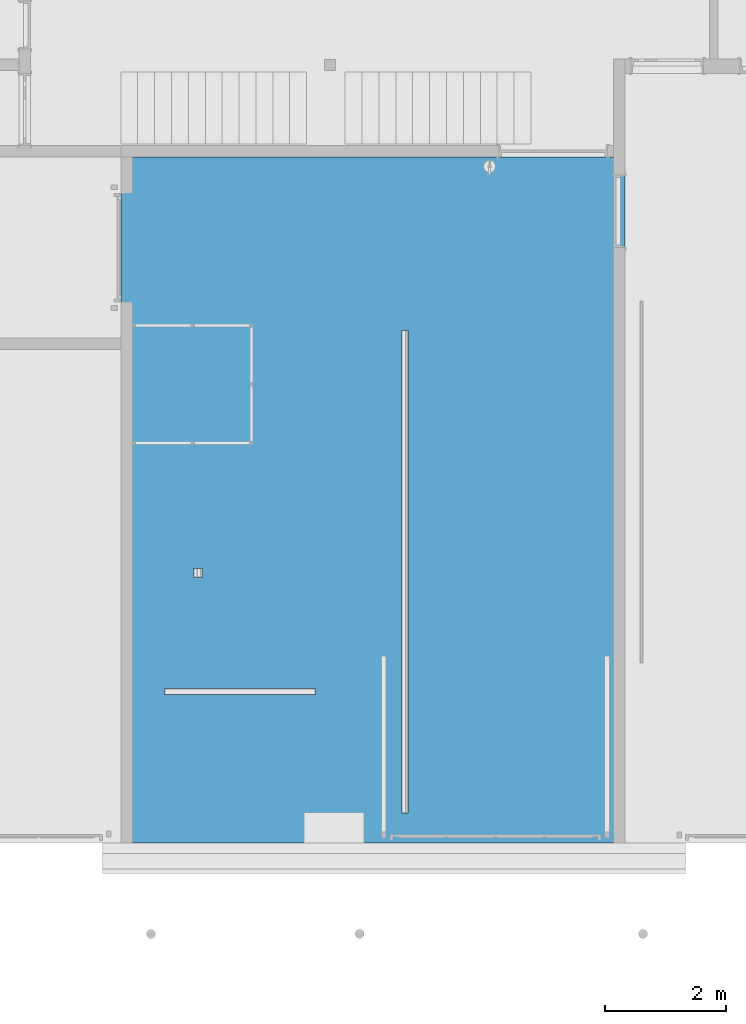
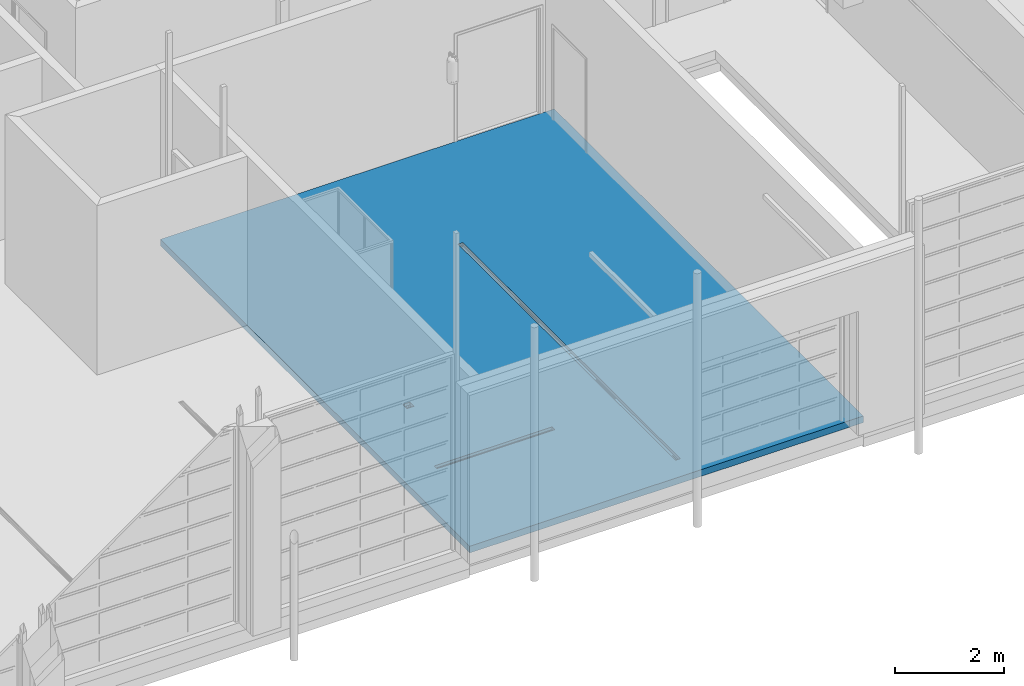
# One storey, part 53 of 112: 1 building element part, 1 element without a shape of its own.
"""IFC2X3 building model written with IfcOpenShell, lengths in millimetres."""

from ifc_helpers import new_model, entity, si_unit, converted_unit, derived_unit, money_unit, direction, frame, origin_with_axes, place, context, subcontext, project, spatial, polyline, outline, extrude, boolean, faceted_brep, material, type_object, element, aggregate, save


model = new_model("IFC2X3")

# Units and contexts
model_context = context("Model", 3, precision=0.01, world=origin_with_axes(), true_north=direction((0.0, 1.0)))
body_context = subcontext(model_context, "Body", "Model", "MODEL_VIEW")
ifc_project = project(units=[si_unit("LENGTHUNIT", "METRE", prefix="MILLI"), si_unit("AREAUNIT", "SQUARE_METRE"), si_unit("VOLUMEUNIT", "CUBIC_METRE"), converted_unit("PLANEANGLEUNIT", "DEGREE", entity("IfcPlaneAngleMeasure", 0.0174532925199), si_unit("PLANEANGLEUNIT", "RADIAN"), dimensions=[0, 0, 0, 0, 0, 0, 0]), si_unit("SOLIDANGLEUNIT", "STERADIAN"), money_unit("EUR"), converted_unit("TIMEUNIT", "Year", entity("IfcTimeMeasure", 31556926.0), si_unit("TIMEUNIT", "SECOND"), dimensions=[0, 0, 1, 0, 0, 0, 0]), si_unit("MASSUNIT", "GRAM", prefix="KILO"), si_unit("THERMODYNAMICTEMPERATUREUNIT", "DEGREE_CELSIUS"), si_unit("LUMINOUSINTENSITYUNIT", "LUMEN"), si_unit("ENERGYUNIT", "JOULE", prefix="MEGA"), derived_unit("THERMALCONDUCTANCEUNIT", [(si_unit("POWERUNIT", "WATT"), 1), (si_unit("LENGTHUNIT", "METRE"), -1), (si_unit("THERMODYNAMICTEMPERATUREUNIT", "KELVIN"), -1)]), derived_unit("SPECIFICHEATCAPACITYUNIT", [(si_unit("ENERGYUNIT", "JOULE"), 1), (si_unit("MASSUNIT", "GRAM", prefix="KILO"), -1), (si_unit("THERMODYNAMICTEMPERATUREUNIT", "KELVIN"), -1)]), derived_unit("MASSDENSITYUNIT", [(si_unit("MASSUNIT", "GRAM", prefix="KILO"), 1), (si_unit("VOLUMEUNIT", "CUBIC_METRE"), -1)])], contexts=[model_context])

# Site, building, storey
site_placement = place(None, origin_with_axes())
site = spatial("IfcSite", under=ifc_project, at=site_placement, Name="Politse- ja Piirivalveameti ning Päästeameti ühishoone", CompositionType="ELEMENT")
building_placement = place(site_placement, origin_with_axes())
building = spatial("IfcBuilding", under=site, at=building_placement, Name="Politse- ja Piirivalveameti ning Päästeameti ühishoone", CompositionType="ELEMENT")
storey_placement = place(building_placement, origin_with_axes())
storey = spatial("IfcBuildingStorey", under=building, at=storey_placement, Name="Esimene korrus", CompositionType="ELEMENT", Elevation=0.0)

# Slab, building element part
slab_type = type_object("IfcSlabType", Name="PP-02_Põrand pinnasel 650", PredefinedType="NOTDEFINED")
slab_placement = place(storey_placement, frame((18400.0881112, 0.0, 0.0), z_axis=(0.0, 0.0, 1.0), x_axis=(1.0, 0.0, 0.0)))
slab = element("IfcSlab", 1, at=slab_placement, inside=storey, type_object=slab_type, Name="PP-02", PredefinedType="NOTDEFINED")
ifc_material = material(Name="VKR-01_Betoon")
building_element_part_placement = place(slab_placement, origin_with_axes())
building_element_part = element("IfcBuildingElementPart", 2, at=building_element_part_placement, material=ifc_material, Name="VKR-01_Betoon", context=body_context, shape_type="CSG", body=[
    boolean("DIFFERENCE", boolean("DIFFERENCE", boolean("DIFFERENCE", extrude(outline(polyline([(0.0, 0.0), (8359.61277161, 0.0), (8359.61277161, 11370.0198611), (0.0, 11370.0198611), (0.0, 0.0)])), frame((0.0, 0.0, -150.0), z_axis=(0.0, 0.0, 1.0), x_axis=(1.0, 0.0, 0.0)), (0.0, 0.0, 1.0), 150.0), faceted_brep([(1207.58914778, 4402.69233354, 0.0), (1357.58914778, 4402.69233354, 0.0), (1357.58914778, 4552.69233354, 0.0), (1207.58914778, 4552.69233354, 0.0), (1207.58914778, 4402.69233354, -100.0), (1357.58914778, 4402.69233354, -100.0), (1357.58914778, 4552.69233354, -100.0), (1207.58914778, 4552.69233354, -100.0), (1212.58914778, 4547.69233354, -100.0), (1212.58914778, 4522.19233354, -100.0), (1212.58914778, 4520.19233354, -100.0), (1212.58914778, 4493.19233354, -100.0), (1212.58914778, 4491.19233354, -100.0), (1212.58914778, 4464.19233354, -100.0), (1212.58914778, 4462.19233354, -100.0), (1212.58914778, 4435.19233354, -100.0), (1212.58914778, 4433.19233354, -100.0), (1212.58914778, 4407.69233354, -100.0), (1238.08914778, 4407.69233354, -100.0), (1240.08914778, 4407.69233354, -100.0), (1267.08914778, 4407.69233354, -100.0), (1269.08914778, 4407.69233354, -100.0), (1296.08914778, 4407.69233354, -100.0), (1298.08914778, 4407.69233354, -100.0), (1325.08914778, 4407.69233354, -100.0), (1327.08914778, 4407.69233354, -100.0), (1352.58914778, 4407.69233354, -100.0), (1352.58914778, 4433.19233354, -100.0), (1352.58914778, 4435.19233354, -100.0), (1352.58914778, 4462.19233354, -100.0), (1352.58914778, 4464.19233354, -100.0), (1352.58914778, 4491.19233354, -100.0), (1352.58914778, 4493.19233354, -100.0), (1352.58914778, 4520.19233354, -100.0), (1352.58914778, 4522.19233354, -100.0), (1352.58914778, 4547.69233354, -100.0), (1327.08914778, 4547.69233354, -100.0), (1327.08914778, 4522.19233354, -100.0), (1327.08914778, 4520.19233354, -100.0), (1327.08914778, 4493.19233354, -100.0), (1327.08914778, 4491.19233354, -100.0), (1327.08914778, 4464.19233354, -100.0), (1327.08914778, 4462.19233354, -100.0), (1327.08914778, 4435.19233354, -100.0), (1327.08914778, 4433.19233354, -100.0), (1325.08914778, 4433.19233354, -100.0), (1325.08914778, 4435.19233354, -100.0), (1325.08914778, 4462.19233354, -100.0), (1325.08914778, 4464.19233354, -100.0), (1325.08914778, 4491.19233354, -100.0), (1325.08914778, 4493.19233354, -100.0), (1325.08914778, 4520.19233354, -100.0), (1325.08914778, 4522.19233354, -100.0), (1325.08914778, 4547.69233354, -100.0), (1298.08914778, 4547.69233354, -100.0), (1298.08914778, 4522.19233354, -100.0), (1298.08914778, 4520.19233354, -100.0), (1298.08914778, 4493.19233354, -100.0), (1298.08914778, 4491.19233354, -100.0), (1298.08914778, 4464.19233354, -100.0), (1298.08914778, 4462.19233354, -100.0), (1298.08914778, 4435.19233354, -100.0), (1298.08914778, 4433.19233354, -100.0), (1296.08914778, 4433.19233354, -100.0), (1296.08914778, 4435.19233354, -100.0), (1296.08914778, 4462.19233354, -100.0), (1296.08914778, 4464.19233354, -100.0), (1296.08914778, 4491.19233354, -100.0), (1296.08914778, 4493.19233354, -100.0), (1296.08914778, 4520.19233354, -100.0), (1296.08914778, 4522.19233354, -100.0), (1296.08914778, 4547.69233354, -100.0), (1269.08914748, 4547.69233354, -100.0), (1269.08914778, 4522.19233354, -100.0), (1269.08914778, 4520.19233354, -100.0), (1269.08914778, 4493.19233354, -100.0), (1269.08914778, 4491.19233354, -100.0), (1269.08914778, 4464.19233354, -100.0), (1269.08914778, 4462.19233354, -100.0), (1269.08914778, 4435.19233354, -100.0), (1269.08914778, 4433.19233354, -100.0), (1267.08914778, 4433.19233354, -100.0), (1267.08914778, 4435.19233354, -100.0), (1267.08914778, 4462.19233354, -100.0), (1267.08914778, 4464.19233354, -100.0), (1267.08914778, 4491.19233354, -100.0), (1267.08914778, 4493.19233354, -100.0), (1267.08914778, 4520.19233354, -100.0), (1267.08914778, 4522.19233354, -100.0), (1267.08914778, 4547.69233354, -100.0), (1240.08914748, 4547.69233354, -100.0), (1240.08914778, 4522.19233354, -100.0), (1240.08914778, 4520.19233354, -100.0), (1240.08914778, 4493.19233354, -100.0), (1240.08914778, 4491.19233354, -100.0), (1240.08914778, 4464.19233354, -100.0), (1240.08914778, 4462.19233354, -100.0), (1240.08914778, 4435.19233354, -100.0), (1240.08914778, 4433.19233354, -100.0), (1238.08914778, 4433.19233354, -100.0), (1238.08914778, 4435.19233354, -100.0), (1238.08914778, 4462.19233354, -100.0), (1238.08914778, 4464.19233354, -100.0), (1238.08914778, 4491.19233354, -100.0), (1238.08914778, 4493.19233354, -100.0), (1238.08914778, 4520.19233354, -100.0), (1238.08914778, 4522.19233354, -100.0), (1238.08914778, 4547.69233354, -100.0), (1212.58914778, 4547.69233354, -56.35), (1212.58914778, 4522.19233354, -56.35), (1212.58914778, 4520.19233354, -56.35), (1212.58914778, 4493.19233354, -56.35), (1212.58914778, 4491.19233354, -56.35), (1212.58914778, 4464.19233354, -56.35), (1212.58914778, 4462.19233354, -56.35), (1212.58914778, 4435.19233354, -56.35), (1212.58914778, 4433.19233354, -56.35), (1212.58914778, 4407.69233354, -56.35), (1238.08914778, 4407.69233354, -56.35), (1240.08914778, 4407.69233354, -56.35), (1267.08914778, 4407.69233354, -56.35), (1269.08914778, 4407.69233354, -56.35), (1296.08914778, 4407.69233354, -56.35), (1298.08914778, 4407.69233354, -56.35), (1325.08914778, 4407.69233354, -56.35), (1327.08914778, 4407.69233354, -56.35), (1352.58914778, 4407.69233354, -56.35), (1352.58914778, 4433.19233354, -56.35), (1352.58914778, 4435.19233354, -56.35), (1352.58914778, 4462.19233354, -56.35), (1352.58914778, 4464.19233354, -56.35), (1352.58914778, 4491.19233354, -56.35), (1352.58914778, 4493.19233354, -56.35), (1352.58914778, 4520.19233354, -56.35), (1352.58914778, 4522.19233354, -56.35), (1352.58914778, 4547.69233354, -56.35), (1327.08914778, 4547.69233354, -56.35), (1327.08914778, 4522.19233354, -56.35), (1327.08914778, 4520.19233354, -56.35), (1327.08914778, 4493.19233354, -56.35), (1327.08914778, 4491.19233354, -56.35), (1327.08914778, 4464.19233354, -56.35), (1327.08914778, 4462.19233354, -56.35), (1327.08914778, 4435.19233354, -56.35), (1327.08914778, 4433.19233354, -56.35), (1325.08914778, 4433.19233354, -56.35), (1325.08914778, 4435.19233354, -56.35), (1325.08914778, 4462.19233354, -56.35), (1325.08914778, 4464.19233354, -56.35), (1325.08914778, 4491.19233354, -56.35), (1325.08914778, 4493.19233354, -56.35), (1325.08914778, 4520.19233354, -56.35), (1325.08914778, 4522.19233354, -56.35), (1325.08914778, 4547.69233354, -56.35), (1298.08914778, 4547.69233354, -56.35), (1298.08914778, 4522.19233354, -56.35), (1298.08914778, 4520.19233354, -56.35), (1298.08914778, 4493.19233354, -56.35), (1298.08914778, 4491.19233354, -56.35), (1298.08914778, 4464.19233354, -56.35), (1298.08914778, 4462.19233354, -56.35), (1298.08914778, 4435.19233354, -56.35), (1298.08914778, 4433.19233354, -56.35), (1296.08914778, 4433.19233354, -56.35), (1296.08914778, 4435.19233354, -56.35), (1296.08914778, 4462.19233354, -56.35), (1296.08914778, 4464.19233354, -56.35), (1296.08914778, 4491.19233354, -56.35), (1296.08914778, 4493.19233354, -56.35), (1296.08914778, 4520.19233354, -56.35), (1296.08914778, 4522.19233354, -56.35), (1296.08914778, 4547.69233354, -56.35), (1269.08914748, 4547.69233354, -56.35), (1269.08914778, 4522.19233354, -56.35), (1269.08914778, 4520.19233354, -56.35), (1269.08914778, 4493.19233354, -56.35), (1269.08914778, 4491.19233354, -56.35), (1269.08914778, 4464.19233354, -56.35), (1269.08914778, 4462.19233354, -56.35), (1269.08914778, 4435.19233354, -56.35), (1269.08914778, 4433.19233354, -56.35), (1267.08914778, 4433.19233354, -56.35), (1267.08914778, 4435.19233354, -56.35), (1267.08914778, 4462.19233354, -56.35), (1267.08914778, 4464.19233354, -56.35), (1267.08914778, 4491.19233354, -56.35), (1267.08914778, 4493.19233354, -56.35), (1267.08914778, 4520.19233354, -56.35), (1267.08914778, 4522.19233354, -56.35), (1267.08914778, 4547.69233354, -56.35), (1240.08914748, 4547.69233354, -56.35), (1240.08914778, 4522.19233354, -56.35), (1240.08914778, 4520.19233354, -56.35), (1240.08914778, 4493.19233354, -56.35), (1240.08914778, 4491.19233354, -56.35), (1240.08914778, 4464.19233354, -56.35), (1240.08914778, 4462.19233354, -56.35), (1240.08914778, 4435.19233354, -56.35), (1240.08914778, 4433.19233354, -56.35), (1238.08914778, 4433.19233354, -56.35), (1238.08914778, 4435.19233354, -56.35), (1238.08914778, 4462.19233354, -56.35), (1238.08914778, 4464.19233354, -56.35), (1238.08914778, 4491.19233354, -56.35), (1238.08914778, 4493.19233354, -56.35), (1238.08914778, 4520.19233354, -56.35), (1238.08914778, 4522.19233354, -56.35), (1238.08914778, 4547.69233354, -56.35)], [[[0, 1, 2, 3]], [[1, 0, 4, 5]], [[2, 1, 5, 6]], [[3, 2, 6, 7]], [[0, 3, 7, 4]], [[7, 8, 9, 10, 11, 12, 13, 14, 15, 16, 17, 18, 19, 20, 21, 22, 23, 24, 25, 26, 27, 28, 29, 30, 31, 32, 33, 34, 35, 6, 5, 4]], [[8, 7, 6, 35, 36, 37, 38, 39, 40, 41, 42, 43, 44, 25, 24, 45, 46, 47, 48, 49, 50, 51, 52, 53, 54, 55, 56, 57, 58, 59, 60, 61, 62, 23, 22, 63, 64, 65, 66, 67, 68, 69, 70, 71, 72, 73, 74, 75, 76, 77, 78, 79, 80, 21, 20, 81, 82, 83, 84, 85, 86, 87, 88, 89, 90, 91, 92, 93, 94, 95, 96, 97, 98, 19, 18, 99, 100, 101, 102, 103, 104, 105, 106, 107]], [[9, 8, 108, 109]], [[106, 105, 10, 9]], [[11, 10, 110, 111]], [[104, 103, 12, 11]], [[13, 12, 112, 113]], [[102, 101, 14, 13]], [[15, 14, 114, 115]], [[100, 99, 16, 15]], [[17, 16, 116, 117]], [[18, 17, 117, 118]], [[20, 19, 119, 120]], [[22, 21, 121, 122]], [[24, 23, 123, 124]], [[26, 25, 125, 126]], [[27, 26, 126, 127]], [[27, 44, 43, 28]], [[29, 28, 128, 129]], [[29, 42, 41, 30]], [[31, 30, 130, 131]], [[40, 39, 32, 31]], [[33, 32, 132, 133]], [[33, 38, 37, 34]], [[35, 34, 134, 135]], [[135, 136, 36, 35]], [[37, 36, 136, 137]], [[39, 38, 138, 139]], [[41, 40, 140, 141]], [[43, 42, 142, 143]], [[144, 125, 25, 44]], [[45, 24, 124, 145]], [[62, 61, 46, 45]], [[47, 46, 146, 147]], [[47, 60, 59, 48]], [[49, 48, 148, 149]], [[58, 57, 50, 49]], [[51, 50, 150, 151]], [[51, 56, 55, 52]], [[53, 52, 152, 153]], [[153, 154, 54, 53]], [[55, 54, 154, 155]], [[57, 56, 156, 157]], [[59, 58, 158, 159]], [[61, 60, 160, 161]], [[23, 62, 162, 123]], [[63, 22, 122, 163]], [[80, 79, 64, 63]], [[65, 64, 164, 165]], [[65, 78, 77, 66]], [[67, 66, 166, 167]], [[67, 76, 75, 68]], [[69, 68, 168, 169]], [[74, 73, 70, 69]], [[71, 70, 170, 171]], [[171, 172, 72, 71]], [[73, 72, 172, 173]], [[75, 74, 174, 175]], [[77, 76, 176, 177]], [[79, 78, 178, 179]], [[21, 80, 180, 121]], [[120, 181, 81, 20]], [[82, 81, 98, 97]], [[83, 82, 182, 183]], [[83, 96, 95, 84]], [[85, 84, 184, 185]], [[85, 94, 93, 86]], [[87, 86, 186, 187]], [[88, 87, 92, 91]], [[89, 88, 188, 189]], [[189, 190, 90, 89]], [[91, 90, 190, 191]], [[93, 92, 192, 193]], [[95, 94, 194, 195]], [[97, 96, 196, 197]], [[19, 98, 198, 119]], [[99, 18, 118, 199]], [[101, 100, 200, 201]], [[103, 102, 202, 203]], [[105, 104, 204, 205]], [[107, 106, 206, 207]], [[207, 108, 8, 107]], [[206, 109, 108, 207]], [[106, 9, 109, 206]], [[205, 110, 10, 105]], [[111, 110, 205, 204]], [[104, 11, 111, 204]], [[203, 112, 12, 103]], [[113, 112, 203, 202]], [[102, 13, 113, 202]], [[201, 114, 14, 101]], [[115, 114, 201, 200]], [[100, 15, 115, 200]], [[199, 116, 16, 99]], [[118, 117, 116, 199]], [[119, 198, 181, 120]], [[163, 122, 121, 180]], [[145, 124, 123, 162]], [[127, 126, 125, 144]], [[127, 144, 44, 27]], [[28, 43, 143, 128]], [[129, 128, 143, 142]], [[129, 142, 42, 29]], [[30, 41, 141, 130]], [[130, 141, 140, 131]], [[131, 140, 40, 31]], [[32, 39, 139, 132]], [[132, 139, 138, 133]], [[133, 138, 38, 33]], [[34, 37, 137, 134]], [[135, 134, 137, 136]], [[145, 162, 62, 45]], [[46, 61, 161, 146]], [[147, 146, 161, 160]], [[147, 160, 60, 47]], [[48, 59, 159, 148]], [[148, 159, 158, 149]], [[149, 158, 58, 49]], [[50, 57, 157, 150]], [[157, 156, 151, 150]], [[151, 156, 56, 51]], [[52, 55, 155, 152]], [[152, 155, 154, 153]], [[163, 180, 80, 63]], [[64, 79, 179, 164]], [[179, 178, 165, 164]], [[165, 178, 78, 65]], [[66, 77, 177, 166]], [[177, 176, 167, 166]], [[167, 176, 76, 67]], [[68, 75, 175, 168]], [[168, 175, 174, 169]], [[169, 174, 74, 69]], [[70, 73, 173, 170]], [[170, 173, 172, 171]], [[181, 198, 98, 81]], [[82, 97, 197, 182]], [[197, 196, 183, 182]], [[183, 196, 96, 83]], [[84, 95, 195, 184]], [[184, 195, 194, 185]], [[185, 194, 94, 85]], [[86, 93, 193, 186]], [[187, 186, 193, 192]], [[187, 192, 92, 87]], [[88, 91, 191, 188]], [[188, 191, 190, 189]]])), faceted_brep([(726.641850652, 2458.00929481, 0.0), (3226.64185065, 2458.00929481, 0.0), (3226.64185065, 2558.00930971, 0.0), (726.641850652, 2558.00930971, 0.0), (726.641850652, 2458.00929481, -100.0), (3226.64185065, 2458.00929481, -100.0), (3226.64185065, 2558.00930971, -100.0), (726.641850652, 2558.00930971, -100.0), (731.641865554, 2553.00929481, -100.0), (731.641865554, 2463.00930971, -100.0), (1975.64185065, 2463.00929481, -100.0), (1977.64185065, 2463.00929481, -100.0), (3221.64185065, 2463.00929481, -100.0), (3221.64185065, 2491.17596148, -100.0), (3221.64185065, 2493.17597444, -100.0), (3221.64185065, 2522.84262815, -100.0), (3221.64185065, 2524.84262815, -100.0), (3221.64185065, 2553.00929481, -100.0), (1977.64185065, 2553.00929481, -100.0), (1975.64185065, 2553.00929481, -100.0), (731.641850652, 2524.84262815, -100.0), (1975.64185065, 2524.84262815, -100.0), (1977.64185065, 2524.84262815, -100.0), (1977.64185065, 2522.84262815, -100.0), (1975.64185065, 2522.84262815, -100.0), (731.641850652, 2522.84262815, -100.0), (731.641850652, 2493.17596148, -100.0), (1975.64185065, 2493.17596148, -100.0), (1977.64185065, 2493.17596148, -100.0), (1977.64185065, 2491.17596148, -100.0), (1975.64185065, 2491.17596148, -100.0), (731.641850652, 2491.17596148, -100.0), (731.641865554, 2463.00930971, -56.35), (1975.64185065, 2463.00929481, -56.35), (1977.64185065, 2463.00929481, -56.35), (3221.64185065, 2463.00929481, -56.35), (3221.64185065, 2491.17596148, -56.35), (3221.64185065, 2493.17597444, -56.35), (3221.64185065, 2522.84262815, -56.35), (3221.64185065, 2524.84262815, -56.35), (3221.64185065, 2553.00929481, -56.35), (1977.64185065, 2553.00929481, -56.35), (1975.64185065, 2553.00929481, -56.35), (731.641865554, 2553.00929481, -56.35), (731.641850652, 2524.84262815, -56.35), (1975.64185065, 2524.84262815, -56.35), (1977.64185065, 2524.84262815, -56.35), (1977.64185065, 2522.84262815, -56.35), (1975.64185065, 2522.84262815, -56.35), (731.641850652, 2522.84262815, -56.35), (731.641850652, 2493.17596148, -56.35), (1975.64185065, 2493.17596148, -56.35), (1977.64185065, 2493.17596148, -56.35), (1977.64185065, 2491.17596148, -56.35), (1975.64185065, 2491.17596148, -56.35), (731.641850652, 2491.17596148, -56.35)], [[[0, 1, 2, 3]], [[1, 0, 4, 5]], [[2, 1, 5, 6]], [[3, 2, 6, 7]], [[0, 3, 7, 4]], [[8, 7, 6, 5, 4, 9, 10, 11, 12, 13, 14, 15, 16, 17, 18, 19]], [[7, 8, 20, 21, 22, 16, 15, 23, 24, 25, 26, 27, 28, 14, 13, 29, 30, 31, 9, 4]], [[9, 32, 33, 10]], [[11, 10, 30, 29]], [[11, 34, 35, 12]], [[12, 35, 36, 13]], [[14, 37, 38, 15]], [[16, 39, 40, 17]], [[17, 40, 41, 18]], [[22, 21, 19, 18]], [[19, 42, 43, 8]], [[44, 20, 8, 43]], [[20, 44, 45, 21]], [[39, 16, 22, 46]], [[15, 38, 47, 23]], [[27, 24, 23, 28]], [[24, 48, 49, 25]], [[50, 26, 25, 49]], [[26, 50, 51, 27]], [[37, 14, 28, 52]], [[53, 29, 13, 36]], [[30, 54, 55, 31]], [[32, 9, 31, 55]], [[33, 32, 55, 54]], [[10, 33, 54, 30]], [[34, 11, 29, 53]], [[35, 34, 53, 36]], [[38, 37, 52, 47]], [[39, 46, 41, 40]], [[46, 22, 18, 41]], [[21, 45, 42, 19]], [[45, 44, 43, 42]], [[52, 28, 23, 47]], [[27, 51, 48, 24]], [[51, 50, 49, 48]]])), faceted_brep([(4658.86340806, 497.35908012, 0.0), (4758.86340806, 497.35908012, 0.0), (4758.86340806, 8497.35908012, 0.0), (4658.86340806, 8497.35908012, 0.0), (4658.86340806, 497.35908012, -100.0), (4758.86340806, 497.35908012, -100.0), (4758.86340806, 8497.35908012, -100.0), (4658.86340806, 8497.35908012, -100.0), (4663.86340806, 8492.35908012, -100.0), (4663.86340806, 4498.35908012, -100.0), (4663.86340806, 4496.35908012, -100.0), (4663.86340806, 502.35908012, -100.0), (4692.03007473, 502.35908012, -100.0), (4694.03007473, 502.35908012, -100.0), (4723.6967414, 502.35908012, -100.0), (4725.6967414, 502.35908012, -100.0), (4753.86340806, 502.35908012, -100.0), (4753.86340806, 4496.35908012, -100.0), (4753.86340806, 4498.35908012, -100.0), (4753.86340806, 8492.35908012, -100.0), (4725.69671785, 8492.35908012, -100.0), (4725.6967414, 4498.35908012, -100.0), (4725.6967414, 4496.35908012, -100.0), (4723.6967414, 4496.35908012, -100.0), (4723.6967414, 4498.35908012, -100.0), (4723.6967414, 8492.35908012, -100.0), (4694.03005119, 8492.35908012, -100.0), (4694.03007473, 4498.35908012, -100.0), (4694.03007473, 4496.35908012, -100.0), (4692.03007473, 4496.35908012, -100.0), (4692.03007473, 4498.35908012, -100.0), (4692.03007473, 8492.35908012, -100.0), (4663.86340806, 8492.35908012, -56.35), (4663.86340806, 4498.35908012, -56.35), (4663.86340806, 4496.35908012, -56.35), (4663.86340806, 502.35908012, -56.35), (4692.03007473, 502.35908012, -56.35), (4694.03007473, 502.35908012, -56.35), (4723.6967414, 502.35908012, -56.35), (4725.6967414, 502.35908012, -56.35), (4753.86340806, 502.35908012, -56.35), (4753.86340806, 4496.35908012, -56.35), (4753.86340806, 4498.35908012, -56.35), (4753.86340806, 8492.35908012, -56.35), (4725.69671785, 8492.35908012, -56.35), (4725.6967414, 4498.35908012, -56.35), (4725.6967414, 4496.35908012, -56.35), (4723.6967414, 4496.35908012, -56.35), (4723.6967414, 4498.35908012, -56.35), (4723.6967414, 8492.35908012, -56.35), (4694.03005119, 8492.35908012, -56.35), (4694.03007473, 4498.35908012, -56.35), (4694.03007473, 4496.35908012, -56.35), (4692.03007473, 4496.35908012, -56.35), (4692.03007473, 4498.35908012, -56.35), (4692.03007473, 8492.35908012, -56.35)], [[[0, 1, 2, 3]], [[1, 0, 4, 5]], [[2, 1, 5, 6]], [[3, 2, 6, 7]], [[0, 3, 7, 4]], [[7, 8, 9, 10, 11, 12, 13, 14, 15, 16, 17, 18, 19, 6, 5, 4]], [[8, 7, 6, 19, 20, 21, 22, 15, 14, 23, 24, 25, 26, 27, 28, 13, 12, 29, 30, 31]], [[32, 33, 9, 8]], [[9, 30, 29, 10]], [[34, 35, 11, 10]], [[35, 36, 12, 11]], [[37, 38, 14, 13]], [[39, 40, 16, 15]], [[40, 41, 17, 16]], [[21, 18, 17, 22]], [[42, 43, 19, 18]], [[20, 19, 43, 44]], [[44, 45, 21, 20]], [[15, 22, 46, 39]], [[38, 47, 23, 14]], [[24, 23, 28, 27]], [[48, 49, 25, 24]], [[26, 25, 49, 50]], [[50, 51, 27, 26]], [[13, 28, 52, 37]], [[29, 12, 36, 53]], [[54, 55, 31, 30]], [[8, 31, 55, 32]], [[33, 32, 55, 54]], [[33, 54, 30, 9]], [[10, 29, 53, 34]], [[34, 53, 36, 35]], [[37, 52, 47, 38]], [[46, 41, 40, 39]], [[22, 17, 41, 46]], [[45, 42, 18, 21]], [[45, 44, 43, 42]], [[28, 23, 47, 52]], [[51, 48, 24, 27]], [[50, 49, 48, 51]]])),
])
aggregate(slab, [building_element_part])

save(model, "model.ifc")
